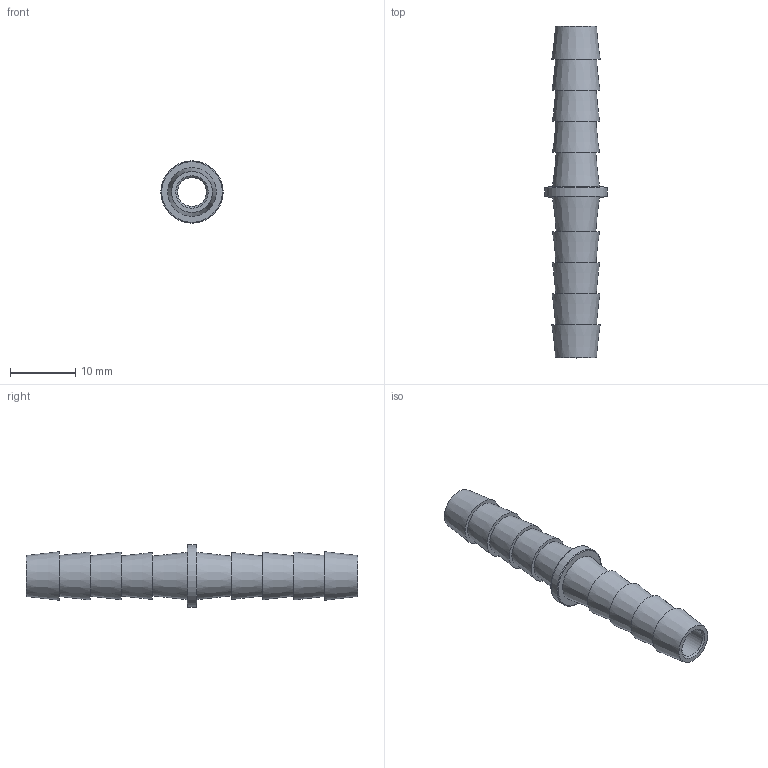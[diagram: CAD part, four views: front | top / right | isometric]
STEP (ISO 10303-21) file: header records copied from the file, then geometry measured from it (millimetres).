
FILE_DESCRIPTION(/* description */ (''),/* implementation_level */ '2;1');
FILE_NAME(/* name */ 'C:/Users/drich/Desktop/HS-14 v2.step',/* time_stamp */ '2020-02-09T10:52:11-06:00',/* author */ (''),/* organization */ (''),/* preprocessor_version */ 'ST-DEVELOPER v18',/* originating_system */ 'Autodesk Translation Framework v8.12.0.6',/* authorisation */ '');
FILE_SCHEMA (('AUTOMOTIVE_DESIGN { 1 0 10303 214 3 1 1 }'));
Length unit declared in the file: inch
Products named in the file (2): HS-14; 14 BARB ONLY
Assembly tree (2 placements, depth 2):
  HS-14
    14 BARB ONLY  x2
Bounding box: 9.53 x 50.8 x 9.53 mm (x, y, z)
Volume: 1076.9 mm3; surface area: 2085 mm2
Topology: 3 solids, 3 shells, 32 faces, 82 edges, 62 vertices
Faces by surface type: cone 14, plane 12, cylinder 4, torus 2
Full cylindrical faces by diameter (mm): 4.445 x2, 4.826 x1, 9.525 x1
Entity records: 705 total; most frequent: DIRECTION 134, CARTESIAN_POINT 109, ORIENTED_EDGE 98, AXIS2_PLACEMENT_3D 62, EDGE_CURVE 49, CIRCLE 39, VERTEX_POINT 37, EDGE_LOOP 26
